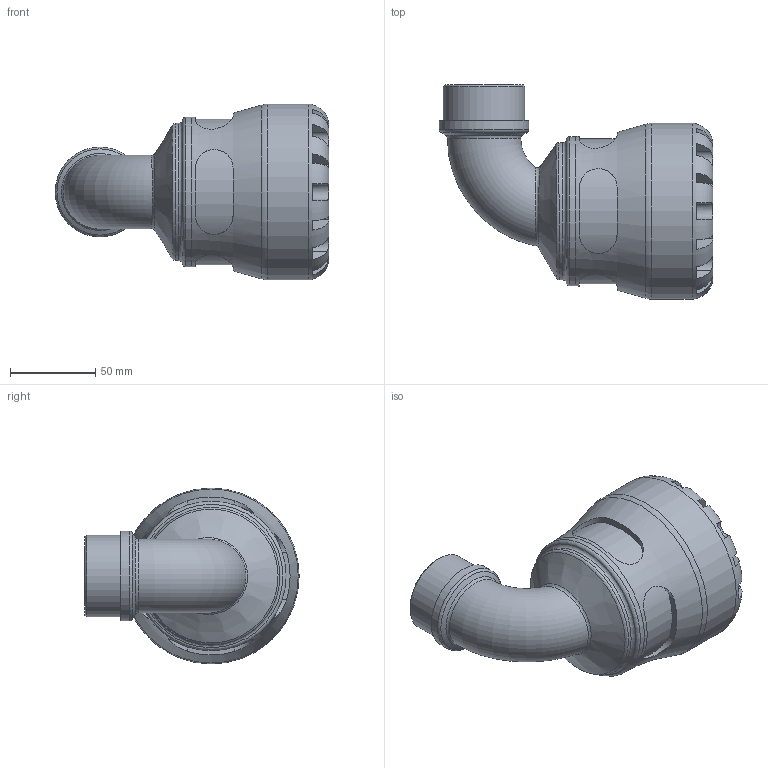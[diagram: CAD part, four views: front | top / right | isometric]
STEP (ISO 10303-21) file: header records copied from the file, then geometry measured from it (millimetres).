
FILE_DESCRIPTION(/* description */ ('PLASSON 90° ELBOW WITH MALE INTEGRAL BRASS 63X1.1/2" SERIES 1'),/* implementation_level */ '2;1');
FILE_NAME(/* name */ 'C:\Dropbox\KIMPROJECTS-Inventor\99-16-3568-Processing\1077\107700063015_197700063015.ipt.stp',/* time_stamp */ '2017-01-22T11:54:48+02:00',/* author */ ('KIM'),/* organization */ (''),/* preprocessor_version */ 'ST-DEVELOPER v15.6',/* originating_system */ 'Autodesk Inventor 2015',/* authorisation */ '');
FILE_SCHEMA (('AUTOMOTIVE_DESIGN { 1 0 10303 214 3 1 1 }'));
Length unit declared in the file: millimetre
Products named in the file (1): 107700063015_197700063015
Bounding box: 160.29 x 125.5 x 103 mm (x, y, z)
Volume: 441588.6 mm3; surface area: 84107.1 mm2
Topology: 1 solids, 1 shells, 111 faces, 275 edges, 171 vertices
Faces by surface type: plane 60, cylinder 36, torus 8, bspline 4, cone 3
Full cylindrical faces by diameter (mm): 33.462 x2, 47.803 x1, 52.583 x1, 63 x1, 80.34 x1, 87.55 x1, 103 x1
Entity records: 4518 total; most frequent: CARTESIAN_POINT 1964, ORIENTED_EDGE 492, DIRECTION 487, EDGE_CURVE 246, AXIS2_PLACEMENT_3D 203, VERTEX_POINT 162, EDGE_LOOP 138, STYLED_ITEM 112
